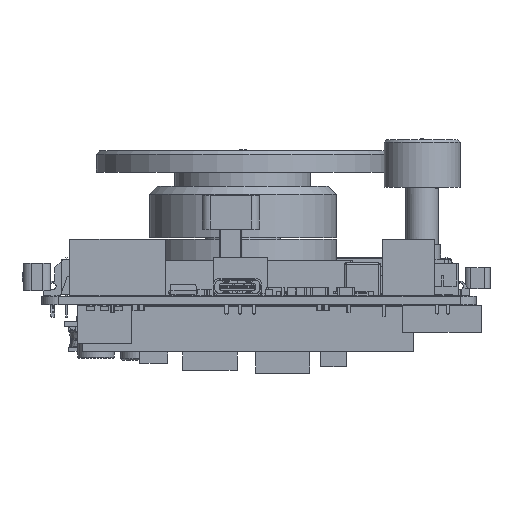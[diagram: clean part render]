
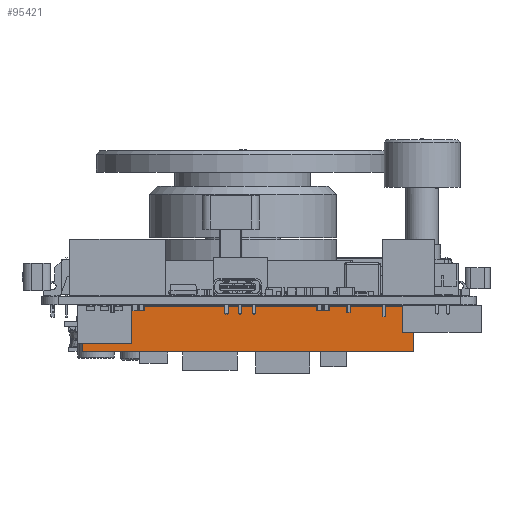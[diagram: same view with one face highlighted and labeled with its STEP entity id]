
A CAD part, front view. The second image highlights one B-rep face of the part: STEP entity #95421.
In plain terms, the highlighted planar face has unit normal (0, -1, 0) as drawn and (-1, 0, 0) by its records, which use the part's own axes.
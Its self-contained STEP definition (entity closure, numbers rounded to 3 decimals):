
#92798 = VERTEX_POINT('',#92799);
#92799 = CARTESIAN_POINT('',(-1.27,-59.69,0.));
#92807 = EDGE_CURVE('',#92798,#92808,#92810,.T.);
#92808 = VERTEX_POINT('',#92809);
#92809 = CARTESIAN_POINT('',(-1.27,-59.69,8.5));
#92810 = LINE('',#92811,#92812);
#92811 = CARTESIAN_POINT('',(-1.27,-59.69,0.));
#92812 = VECTOR('',#92813,1.);
#92813 = DIRECTION('',(0.,0.,1.));
#92870 = VERTEX_POINT('',#92871);
#92871 = CARTESIAN_POINT('',(-1.27,1.27,8.5));
#92877 = EDGE_CURVE('',#92878,#92870,#92880,.T.);
#92878 = VERTEX_POINT('',#92879);
#92879 = CARTESIAN_POINT('',(-1.27,1.27,0.));
#92880 = LINE('',#92881,#92882);
#92881 = CARTESIAN_POINT('',(-1.27,1.27,0.));
#92882 = VECTOR('',#92883,1.);
#92883 = DIRECTION('',(0.,0.,1.));
#92942 = EDGE_CURVE('',#92870,#92808,#92943,.T.);
#92943 = LINE('',#92944,#92945);
#92944 = CARTESIAN_POINT('',(-1.27,1.27,8.5));
#92945 = VECTOR('',#92946,1.);
#92946 = DIRECTION('',(0.,-1.,0.));
#93781 = EDGE_CURVE('',#92878,#92798,#93782,.T.);
#93782 = LINE('',#93783,#93784);
#93783 = CARTESIAN_POINT('',(-1.27,1.27,0.));
#93784 = VECTOR('',#93785,1.);
#93785 = DIRECTION('',(0.,-1.,0.));
#95421 = ADVANCED_FACE('',(#95422),#95428,.F.);
#95422 = FACE_BOUND('',#95423,.F.);
#95423 = EDGE_LOOP('',(#95424,#95425,#95426,#95427));
#95424 = ORIENTED_EDGE('',*,*,#92877,.T.);
#95425 = ORIENTED_EDGE('',*,*,#92942,.T.);
#95426 = ORIENTED_EDGE('',*,*,#92807,.F.);
#95427 = ORIENTED_EDGE('',*,*,#93781,.F.);
#95428 = PLANE('',#95429);
#95429 = AXIS2_PLACEMENT_3D('',#95430,#95431,#95432);
#95430 = CARTESIAN_POINT('',(-1.27,1.27,0.));
#95431 = DIRECTION('',(1.,0.,0.));
#95432 = DIRECTION('',(0.,-1.,0.));
